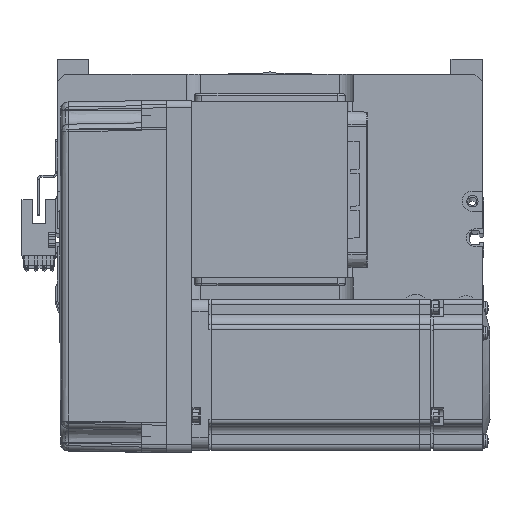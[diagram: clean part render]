
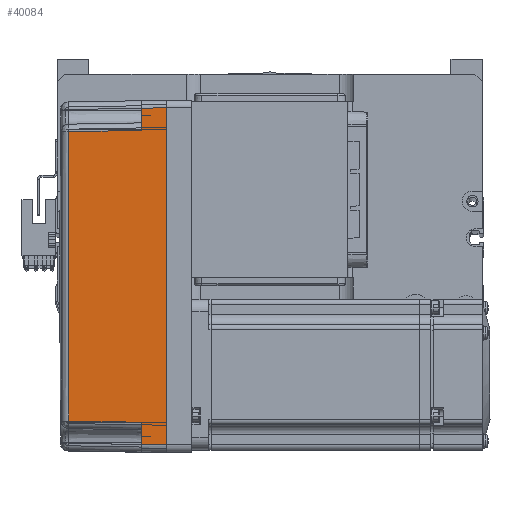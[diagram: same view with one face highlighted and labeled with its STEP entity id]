
A CAD part, top view. The second image highlights one B-rep face of the part: STEP entity #40084.
In plain terms, the highlighted planar face has unit normal (-0.018, 0, 1) as drawn and (0, -1, 0.017) by its records, which use the part's own axes.
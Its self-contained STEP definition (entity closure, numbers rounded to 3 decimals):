
#551 = VERTEX_POINT ( 'NONE', #21282 ) ;
#1091 = LINE ( 'NONE', #7805, #30469 ) ;
#2249 = CARTESIAN_POINT ( 'NONE',  ( -67., -36., 0. ) ) ;
#3266 = VERTEX_POINT ( 'NONE', #37483 ) ;
#5390 = VERTEX_POINT ( 'NONE', #36340 ) ;
#7347 = B_SPLINE_CURVE_WITH_KNOTS ( 'NONE', 3,
 ( #27057, #56457, #12783, #37156 ),
 .UNSPECIFIED., .F., .F.,
 ( 4, 4 ),
 ( 0., 1. ),
 .UNSPECIFIED. ) ;
#7805 = CARTESIAN_POINT ( 'NONE',  ( 67., -36., 0. ) ) ;
#8017 = DIRECTION ( 'NONE',  ( -0.017, 0.017, 1. ) ) ;
#11977 = LINE ( 'NONE', #26571, #36756 ) ;
#12009 = LINE ( 'NONE', #54984, #41291 ) ;
#12228 = CARTESIAN_POINT ( 'NONE',  ( 70., -35.825, 10. ) ) ;
#12783 = CARTESIAN_POINT ( 'NONE',  ( -19.165, -35.316, 39.181 ) ) ;
#15413 = CARTESIAN_POINT ( 'NONE',  ( 67., -36., 0. ) ) ;
#16810 = ORIENTED_EDGE ( 'NONE', *, *, #36302, .T. ) ;
#17258 = DIRECTION ( 'NONE',  ( -1., 0., 0. ) ) ;
#20771 = AXIS2_PLACEMENT_3D ( 'NONE', #21810, #31495, #36310 ) ;
#20848 = VECTOR ( 'NONE', #27433, 1000. ) ;
#21217 = ORIENTED_EDGE ( 'NONE', *, *, #32931, .T. ) ;
#21282 = CARTESIAN_POINT ( 'NONE',  ( 66.826, -35.825, 10. ) ) ;
#21654 = VERTEX_POINT ( 'NONE', #47131 ) ;
#21737 = DIRECTION ( 'NONE',  ( -1., 0., 0. ) ) ;
#21810 = CARTESIAN_POINT ( 'NONE',  ( 70., -36., 0. ) ) ;
#22813 = CARTESIAN_POINT ( 'NONE',  ( 57.495, -35.32, 38.985 ) ) ;
#23856 = FACE_OUTER_BOUND ( 'NONE', #60860, .T. ) ;
#26369 = DIRECTION ( 'NONE',  ( -1., 0., 0. ) ) ;
#26571 = CARTESIAN_POINT ( 'NONE',  ( 70., -35.825, 10. ) ) ;
#26607 = VECTOR ( 'NONE', #17258, 1000. ) ;
#27057 = CARTESIAN_POINT ( 'NONE',  ( 57.495, -35.32, 38.985 ) ) ;
#27433 = DIRECTION ( 'NONE',  ( 0.017, 0.017, 1. ) ) ;
#28996 = ORIENTED_EDGE ( 'NONE', *, *, #54477, .F. ) ;
#29075 = EDGE_CURVE ( 'NONE', #3266, #21654, #12009, .T. ) ;
#29165 = EDGE_CURVE ( 'NONE', #21654, #41220, #11977, .T. ) ;
#29255 = VECTOR ( 'NONE', #37840, 1000. ) ;
#30469 = VECTOR ( 'NONE', #8017, 1000. ) ;
#31219 = ORIENTED_EDGE ( 'NONE', *, *, #29075, .T. ) ;
#31495 = DIRECTION ( 'NONE',  ( 0., -1., 0.017 ) ) ;
#31838 = CARTESIAN_POINT ( 'NONE',  ( 0., -36., 0. ) ) ;
#32003 = ORIENTED_EDGE ( 'NONE', *, *, #29165, .T. ) ;
#32931 = EDGE_CURVE ( 'NONE', #58034, #551, #1091, .T. ) ;
#34989 = VERTEX_POINT ( 'NONE', #2249 ) ;
#36302 = EDGE_CURVE ( 'NONE', #58957, #3266, #7347, .T. ) ;
#36310 = DIRECTION ( 'NONE',  ( 0., -0.017, -1. ) ) ;
#36340 = CARTESIAN_POINT ( 'NONE',  ( 58., -35.825, 10. ) ) ;
#36648 = LINE ( 'NONE', #41508, #20848 ) ;
#36756 = VECTOR ( 'NONE', #26369, 1000. ) ;
#37156 = CARTESIAN_POINT ( 'NONE',  ( -57.495, -35.32, 38.985 ) ) ;
#37483 = CARTESIAN_POINT ( 'NONE',  ( -57.495, -35.32, 38.985 ) ) ;
#37840 = DIRECTION ( 'NONE',  ( -0.017, 0.017, 1. ) ) ;
#38227 = CARTESIAN_POINT ( 'NONE',  ( 58., -35.825, 10. ) ) ;
#38435 = VECTOR ( 'NONE', #21737, 1000. ) ;
#39413 = LINE ( 'NONE', #12228, #26607 ) ;
#40084 = ADVANCED_FACE ( 'NONE', ( #23856 ), #50609, .T. ) ;
#40653 = DIRECTION ( 'NONE',  ( -0.017, -0.017, -1. ) ) ;
#41220 = VERTEX_POINT ( 'NONE', #51521 ) ;
#41291 = VECTOR ( 'NONE', #40653, 1000. ) ;
#41508 = CARTESIAN_POINT ( 'NONE',  ( -66.959, -35.958, 2.39 ) ) ;
#47131 = CARTESIAN_POINT ( 'NONE',  ( -58., -35.825, 10. ) ) ;
#47326 = EDGE_CURVE ( 'NONE', #551, #5390, #39413, .T. ) ;
#47557 = ORIENTED_EDGE ( 'NONE', *, *, #55596, .T. ) ;
#50609 = PLANE ( 'NONE',  #20771 ) ;
#51521 = CARTESIAN_POINT ( 'NONE',  ( -66.826, -35.825, 10. ) ) ;
#51610 = ORIENTED_EDGE ( 'NONE', *, *, #47326, .T. ) ;
#54477 = EDGE_CURVE ( 'NONE', #58034, #34989, #54989, .T. ) ;
#54984 = CARTESIAN_POINT ( 'NONE',  ( -57.495, -35.32, 38.985 ) ) ;
#54989 = LINE ( 'NONE', #31838, #38435 ) ;
#55596 = EDGE_CURVE ( 'NONE', #5390, #58957, #60036, .T. ) ;
#56457 = CARTESIAN_POINT ( 'NONE',  ( 19.165, -35.316, 39.181 ) ) ;
#56570 = EDGE_CURVE ( 'NONE', #34989, #41220, #36648, .T. ) ;
#58034 = VERTEX_POINT ( 'NONE', #15413 ) ;
#58957 = VERTEX_POINT ( 'NONE', #22813 ) ;
#60036 = LINE ( 'NONE', #38227, #29255 ) ;
#60098 = ORIENTED_EDGE ( 'NONE', *, *, #56570, .F. ) ;
#60860 = EDGE_LOOP ( 'NONE', ( #21217, #51610, #47557, #16810, #31219, #32003, #60098, #28996 ) ) ;
